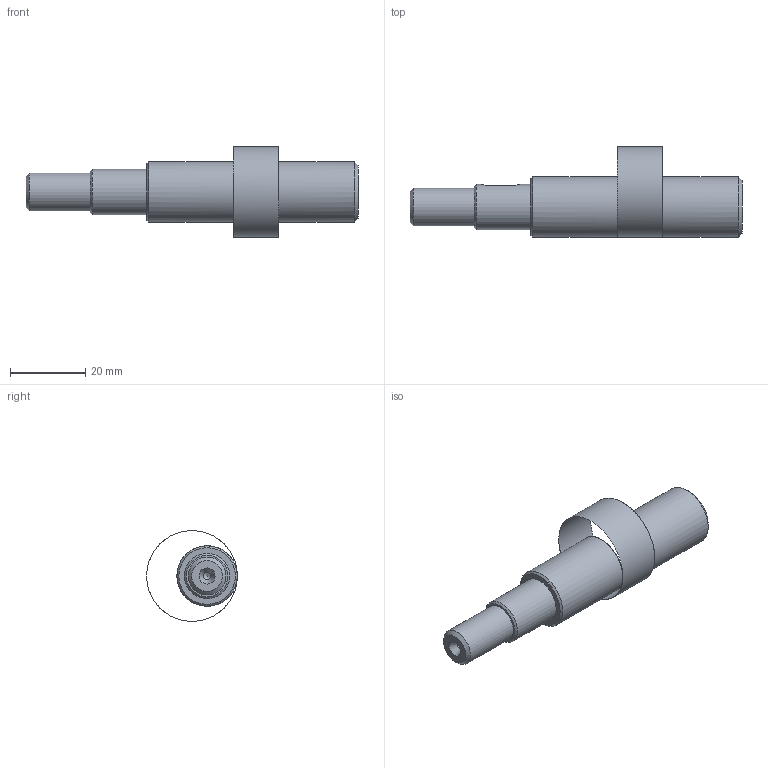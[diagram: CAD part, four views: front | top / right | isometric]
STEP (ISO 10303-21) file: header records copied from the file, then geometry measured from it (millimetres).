
FILE_DESCRIPTION(/* description */ (''),/* implementation_level */ '2;1');
FILE_NAME(/* name */ '',/* time_stamp */ '2025-06-27T16:25:27+09:00',/* author */ ('jhkim'),/* organization */ (''),/* preprocessor_version */ 'ST-DEVELOPER v20.1',/* originating_system */ 'Autodesk Inventor 2026',/* authorisation */ '');
FILE_SCHEMA (('AUTOMOTIVE_DESIGN { 1 0 10303 214 3 1 1 }'));
Length unit declared in the file: millimetre
Products named in the file (1): 편심축
Bounding box: 88 x 24 x 24 mm (x, y, z)
Volume: 17123.1 mm3; surface area: 5157.8 mm2
Topology: 1 solids, 1 shells, 26 faces, 54 edges, 33 vertices
Faces by surface type: cylinder 9, plane 9, cone 8
Full cylindrical faces by diameter (mm): 2 x2, 10 x1, 12 x1, 16 x2, 24 x1
Entity records: 752 total; most frequent: CARTESIAN_POINT 148, DIRECTION 127, ORIENTED_EDGE 104, EDGE_CURVE 52, AXIS2_PLACEMENT_3D 52, VERTEX_POINT 33, EDGE_LOOP 31, FACE_OUTER_BOUND 26
